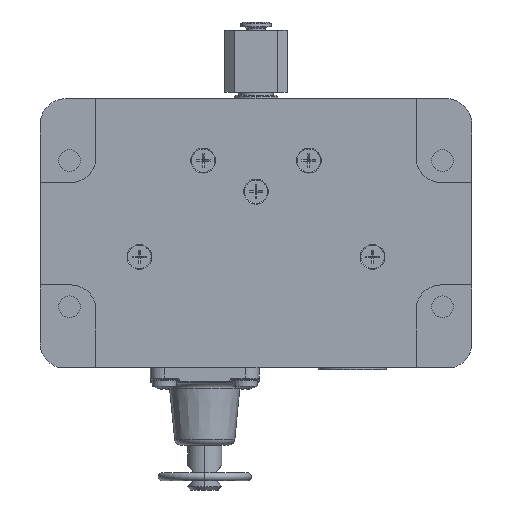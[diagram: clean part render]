
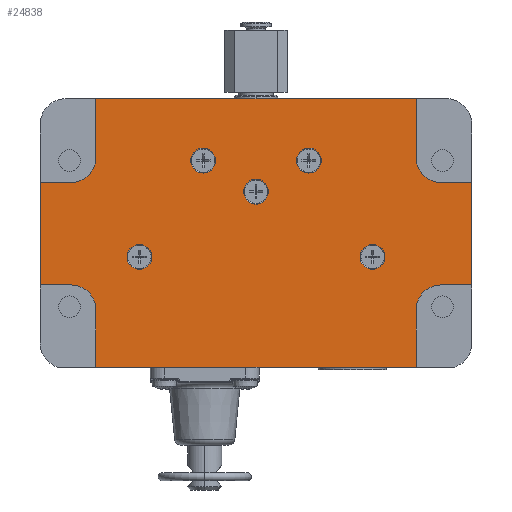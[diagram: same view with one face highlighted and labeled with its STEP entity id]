
A CAD part, front view. The second image highlights one B-rep face of the part: STEP entity #24838.
In plain terms, the highlighted planar face has unit normal (0, -1, 0).
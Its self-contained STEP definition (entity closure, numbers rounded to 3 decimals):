
#3735=DIRECTION('',(0.,0.,-1.));
#3736=VECTOR('',#3735,33.);
#3737=CARTESIAN_POINT('',(-69.495,0.5,16.5));
#3738=LINE('',#3737,#3736);
#3763=DIRECTION('',(1.,0.,0.));
#3764=VECTOR('',#3763,103.);
#3765=CARTESIAN_POINT('',(-51.5,0.5,-43.));
#3766=LINE('',#3765,#3764);
#3770=DIRECTION('',(0.,0.,-1.));
#3771=VECTOR('',#3770,18.5);
#3772=CARTESIAN_POINT('',(-51.5,0.5,-24.5));
#3773=LINE('',#3772,#3771);
#3777=CARTESIAN_POINT('',(-59.5,0.5,-24.5));
#3778=DIRECTION('',(0.,1.,0.));
#3779=DIRECTION('',(0.,0.,1.));
#3780=AXIS2_PLACEMENT_3D('',#3777,#3778,#3779);
#3785=DIRECTION('',(1.,0.,0.));
#3786=VECTOR('',#3785,9.995);
#3787=CARTESIAN_POINT('',(-69.495,0.5,-16.5));
#3788=LINE('',#3787,#3786);
#3792=DIRECTION('',(-1.,0.,0.));
#3793=VECTOR('',#3792,9.995);
#3794=CARTESIAN_POINT('',(-59.5,0.5,16.5));
#3795=LINE('',#3794,#3793);
#3799=CARTESIAN_POINT('',(-59.5,0.5,24.5));
#3800=DIRECTION('',(0.,1.,0.));
#3801=DIRECTION('',(1.,0.,0.));
#3802=AXIS2_PLACEMENT_3D('',#3799,#3800,#3801);
#3807=DIRECTION('',(0.,0.,-1.));
#3808=VECTOR('',#3807,18.995);
#3809=CARTESIAN_POINT('',(-51.5,0.5,43.495));
#3810=LINE('',#3809,#3808);
#3814=DIRECTION('',(0.,0.,1.));
#3815=VECTOR('',#3814,18.995);
#3816=CARTESIAN_POINT('',(51.5,0.5,24.5));
#3817=LINE('',#3816,#3815);
#3821=CARTESIAN_POINT('',(59.5,0.5,24.5));
#3822=DIRECTION('',(0.,1.,0.));
#3823=DIRECTION('',(0.,0.,-1.));
#3824=AXIS2_PLACEMENT_3D('',#3821,#3822,#3823);
#3829=DIRECTION('',(-1.,0.,0.));
#3830=VECTOR('',#3829,9.995);
#3831=CARTESIAN_POINT('',(69.495,0.5,16.5));
#3832=LINE('',#3831,#3830);
#3836=DIRECTION('',(1.,0.,0.));
#3837=VECTOR('',#3836,9.995);
#3838=CARTESIAN_POINT('',(59.5,0.5,-16.5));
#3839=LINE('',#3838,#3837);
#3843=CARTESIAN_POINT('',(59.5,0.5,-24.5));
#3844=DIRECTION('',(0.,1.,0.));
#3845=DIRECTION('',(-1.,0.,0.));
#3846=AXIS2_PLACEMENT_3D('',#3843,#3844,#3845);
#3851=DIRECTION('',(0.,0.,1.));
#3852=VECTOR('',#3851,18.5);
#3853=CARTESIAN_POINT('',(51.5,0.5,-43.));
#3854=LINE('',#3853,#3852);
#3858=CARTESIAN_POINT('',(-37.5,0.5,-7.478));
#3859=DIRECTION('',(0.,-1.,0.));
#3860=DIRECTION('',(0.,0.,1.));
#3861=AXIS2_PLACEMENT_3D('',#3858,#3859,#3860);
#3866=CARTESIAN_POINT('',(-37.5,0.5,-7.478));
#3867=DIRECTION('',(0.,-1.,0.));
#3868=DIRECTION('',(0.,0.,-1.));
#3869=AXIS2_PLACEMENT_3D('',#3866,#3867,#3868);
#3874=CARTESIAN_POINT('',(-17.,0.5,23.522));
#3875=DIRECTION('',(0.,-1.,0.));
#3876=DIRECTION('',(0.,0.,1.));
#3877=AXIS2_PLACEMENT_3D('',#3874,#3875,#3876);
#3882=CARTESIAN_POINT('',(-17.,0.5,23.522));
#3883=DIRECTION('',(0.,-1.,0.));
#3884=DIRECTION('',(0.,0.,-1.));
#3885=AXIS2_PLACEMENT_3D('',#3882,#3883,#3884);
#3890=CARTESIAN_POINT('',(0.,0.5,13.522));
#3891=DIRECTION('',(0.,-1.,0.));
#3892=DIRECTION('',(0.,0.,1.));
#3893=AXIS2_PLACEMENT_3D('',#3890,#3891,#3892);
#3898=CARTESIAN_POINT('',(0.,0.5,13.522));
#3899=DIRECTION('',(0.,-1.,0.));
#3900=DIRECTION('',(0.,0.,-1.));
#3901=AXIS2_PLACEMENT_3D('',#3898,#3899,#3900);
#3906=CARTESIAN_POINT('',(17.,0.5,23.522));
#3907=DIRECTION('',(0.,-1.,0.));
#3908=DIRECTION('',(0.,0.,1.));
#3909=AXIS2_PLACEMENT_3D('',#3906,#3907,#3908);
#3914=CARTESIAN_POINT('',(17.,0.5,23.522));
#3915=DIRECTION('',(0.,-1.,0.));
#3916=DIRECTION('',(0.,0.,-1.));
#3917=AXIS2_PLACEMENT_3D('',#3914,#3915,#3916);
#3922=CARTESIAN_POINT('',(37.5,0.5,-7.478));
#3923=DIRECTION('',(0.,-1.,0.));
#3924=DIRECTION('',(0.,0.,1.));
#3925=AXIS2_PLACEMENT_3D('',#3922,#3923,#3924);
#3930=CARTESIAN_POINT('',(37.5,0.5,-7.478));
#3931=DIRECTION('',(0.,-1.,0.));
#3932=DIRECTION('',(0.,0.,-1.));
#3933=AXIS2_PLACEMENT_3D('',#3930,#3931,#3932);
#4015=DIRECTION('',(1.,0.,0.));
#4016=VECTOR('',#4015,103.);
#4017=CARTESIAN_POINT('',(-51.5,0.5,43.495));
#4018=LINE('',#4017,#4016);
#4178=DIRECTION('',(0.,0.,-1.));
#4179=VECTOR('',#4178,33.);
#4180=CARTESIAN_POINT('',(69.495,0.5,16.5));
#4181=LINE('',#4180,#4179);
#19223=CARTESIAN_POINT('',(-51.5,0.5,24.5));
#19224=CARTESIAN_POINT('',(-59.5,0.5,16.5));
#19225=VERTEX_POINT('',#19223);
#19226=VERTEX_POINT('',#19224);
#19227=CARTESIAN_POINT('',(-59.5,0.5,-16.5));
#19228=CARTESIAN_POINT('',(-51.5,0.5,-24.5));
#19229=VERTEX_POINT('',#19227);
#19230=VERTEX_POINT('',#19228);
#19231=CARTESIAN_POINT('',(51.5,0.5,-24.5));
#19232=CARTESIAN_POINT('',(59.5,0.5,-16.5));
#19233=VERTEX_POINT('',#19231);
#19234=VERTEX_POINT('',#19232);
#19235=CARTESIAN_POINT('',(59.5,0.5,16.5));
#19236=CARTESIAN_POINT('',(51.5,0.5,24.5));
#19237=VERTEX_POINT('',#19235);
#19238=VERTEX_POINT('',#19236);
#19267=CARTESIAN_POINT('',(-69.495,0.5,16.5));
#19268=CARTESIAN_POINT('',(-69.495,0.5,-16.5));
#19269=VERTEX_POINT('',#19267);
#19270=VERTEX_POINT('',#19268);
#19271=CARTESIAN_POINT('',(-51.5,0.5,43.495));
#19272=CARTESIAN_POINT('',(51.5,0.5,43.495));
#19273=VERTEX_POINT('',#19271);
#19274=VERTEX_POINT('',#19272);
#19275=CARTESIAN_POINT('',(69.495,0.5,16.5));
#19276=CARTESIAN_POINT('',(69.495,0.5,-16.5));
#19277=VERTEX_POINT('',#19275);
#19278=VERTEX_POINT('',#19276);
#19414=CARTESIAN_POINT('',(-51.5,0.5,-43.));
#19415=CARTESIAN_POINT('',(51.5,0.5,-43.));
#19416=VERTEX_POINT('',#19414);
#19417=VERTEX_POINT('',#19415);
#19579=CARTESIAN_POINT('',(-37.5,0.5,-3.478));
#19580=CARTESIAN_POINT('',(-37.5,0.5,-11.478));
#19581=VERTEX_POINT('',#19579);
#19582=VERTEX_POINT('',#19580);
#19583=CARTESIAN_POINT('',(-17.,0.5,27.522));
#19584=CARTESIAN_POINT('',(-17.,0.5,19.522));
#19585=VERTEX_POINT('',#19583);
#19586=VERTEX_POINT('',#19584);
#19587=CARTESIAN_POINT('',(0.,0.5,17.522));
#19588=CARTESIAN_POINT('',(0.,0.5,9.522));
#19589=VERTEX_POINT('',#19587);
#19590=VERTEX_POINT('',#19588);
#19591=CARTESIAN_POINT('',(17.,0.5,27.522));
#19592=CARTESIAN_POINT('',(17.,0.5,19.522));
#19593=VERTEX_POINT('',#19591);
#19594=VERTEX_POINT('',#19592);
#19595=CARTESIAN_POINT('',(37.5,0.5,-3.478));
#19596=CARTESIAN_POINT('',(37.5,0.5,-11.478));
#19597=VERTEX_POINT('',#19595);
#19598=VERTEX_POINT('',#19596);
#24772=CARTESIAN_POINT('',(0.,0.5,0.));
#24773=DIRECTION('',(0.,-1.,0.));
#24774=DIRECTION('',(1.,0.,0.));
#24775=AXIS2_PLACEMENT_3D('',#24772,#24773,#24774);
#24776=PLANE('',#24775);
#24777=ORIENTED_EDGE('',*,*,#24576,.F.);
#24778=ORIENTED_EDGE('',*,*,#24637,.F.);
#24780=ORIENTED_EDGE('',*,*,#24779,.F.);
#24782=ORIENTED_EDGE('',*,*,#24781,.F.);
#24783=ORIENTED_EDGE('',*,*,#24744,.F.);
#24785=ORIENTED_EDGE('',*,*,#24784,.F.);
#24787=ORIENTED_EDGE('',*,*,#24786,.F.);
#24789=ORIENTED_EDGE('',*,*,#24788,.F.);
#24791=ORIENTED_EDGE('',*,*,#24790,.T.);
#24793=ORIENTED_EDGE('',*,*,#24792,.F.);
#24795=ORIENTED_EDGE('',*,*,#24794,.F.);
#24797=ORIENTED_EDGE('',*,*,#24796,.F.);
#24799=ORIENTED_EDGE('',*,*,#24798,.T.);
#24801=ORIENTED_EDGE('',*,*,#24800,.F.);
#24803=ORIENTED_EDGE('',*,*,#24802,.F.);
#24805=ORIENTED_EDGE('',*,*,#24804,.F.);
#24806=EDGE_LOOP('',(#24777,#24778,#24780,#24782,#24783,#24785,#24787,#24789,
#24791,#24793,#24795,#24797,#24799,#24801,#24803,#24805));
#24807=FACE_OUTER_BOUND('',#24806,.F.);
#24809=ORIENTED_EDGE('',*,*,#24808,.T.);
#24811=ORIENTED_EDGE('',*,*,#24810,.T.);
#24812=EDGE_LOOP('',(#24809,#24811));
#24813=FACE_BOUND('',#24812,.F.);
#24815=ORIENTED_EDGE('',*,*,#24814,.T.);
#24817=ORIENTED_EDGE('',*,*,#24816,.T.);
#24818=EDGE_LOOP('',(#24815,#24817));
#24819=FACE_BOUND('',#24818,.F.);
#24821=ORIENTED_EDGE('',*,*,#24820,.T.);
#24823=ORIENTED_EDGE('',*,*,#24822,.T.);
#24824=EDGE_LOOP('',(#24821,#24823));
#24825=FACE_BOUND('',#24824,.F.);
#24827=ORIENTED_EDGE('',*,*,#24826,.T.);
#24829=ORIENTED_EDGE('',*,*,#24828,.T.);
#24830=EDGE_LOOP('',(#24827,#24829));
#24831=FACE_BOUND('',#24830,.F.);
#24833=ORIENTED_EDGE('',*,*,#24832,.T.);
#24835=ORIENTED_EDGE('',*,*,#24834,.T.);
#24836=EDGE_LOOP('',(#24833,#24835));
#24837=FACE_BOUND('',#24836,.F.);
#3781=CIRCLE('',#3780,8.);
#3803=CIRCLE('',#3802,8.);
#3825=CIRCLE('',#3824,8.);
#3847=CIRCLE('',#3846,8.);
#3862=CIRCLE('',#3861,4.);
#3870=CIRCLE('',#3869,4.);
#3878=CIRCLE('',#3877,4.);
#3886=CIRCLE('',#3885,4.);
#3894=CIRCLE('',#3893,4.);
#3902=CIRCLE('',#3901,4.);
#3910=CIRCLE('',#3909,4.);
#3918=CIRCLE('',#3917,4.);
#3926=CIRCLE('',#3925,4.);
#3934=CIRCLE('',#3933,4.);
#24576=EDGE_CURVE('',#19416,#19417,#3766,.T.);
#24637=EDGE_CURVE('',#19230,#19416,#3773,.T.);
#24744=EDGE_CURVE('',#19269,#19270,#3738,.T.);
#24779=EDGE_CURVE('',#19229,#19230,#3781,.T.);
#24781=EDGE_CURVE('',#19270,#19229,#3788,.T.);
#24784=EDGE_CURVE('',#19226,#19269,#3795,.T.);
#24786=EDGE_CURVE('',#19225,#19226,#3803,.T.);
#24788=EDGE_CURVE('',#19273,#19225,#3810,.T.);
#24790=EDGE_CURVE('',#19273,#19274,#4018,.T.);
#24792=EDGE_CURVE('',#19238,#19274,#3817,.T.);
#24794=EDGE_CURVE('',#19237,#19238,#3825,.T.);
#24796=EDGE_CURVE('',#19277,#19237,#3832,.T.);
#24798=EDGE_CURVE('',#19277,#19278,#4181,.T.);
#24800=EDGE_CURVE('',#19234,#19278,#3839,.T.);
#24802=EDGE_CURVE('',#19233,#19234,#3847,.T.);
#24804=EDGE_CURVE('',#19417,#19233,#3854,.T.);
#24808=EDGE_CURVE('',#19581,#19582,#3862,.T.);
#24810=EDGE_CURVE('',#19582,#19581,#3870,.T.);
#24814=EDGE_CURVE('',#19585,#19586,#3878,.T.);
#24816=EDGE_CURVE('',#19586,#19585,#3886,.T.);
#24820=EDGE_CURVE('',#19589,#19590,#3894,.T.);
#24822=EDGE_CURVE('',#19590,#19589,#3902,.T.);
#24826=EDGE_CURVE('',#19593,#19594,#3910,.T.);
#24828=EDGE_CURVE('',#19594,#19593,#3918,.T.);
#24832=EDGE_CURVE('',#19597,#19598,#3926,.T.);
#24834=EDGE_CURVE('',#19598,#19597,#3934,.T.);
#24838=ADVANCED_FACE('',(#24807,#24813,#24819,#24825,#24831,#24837),#24776,.T.);
